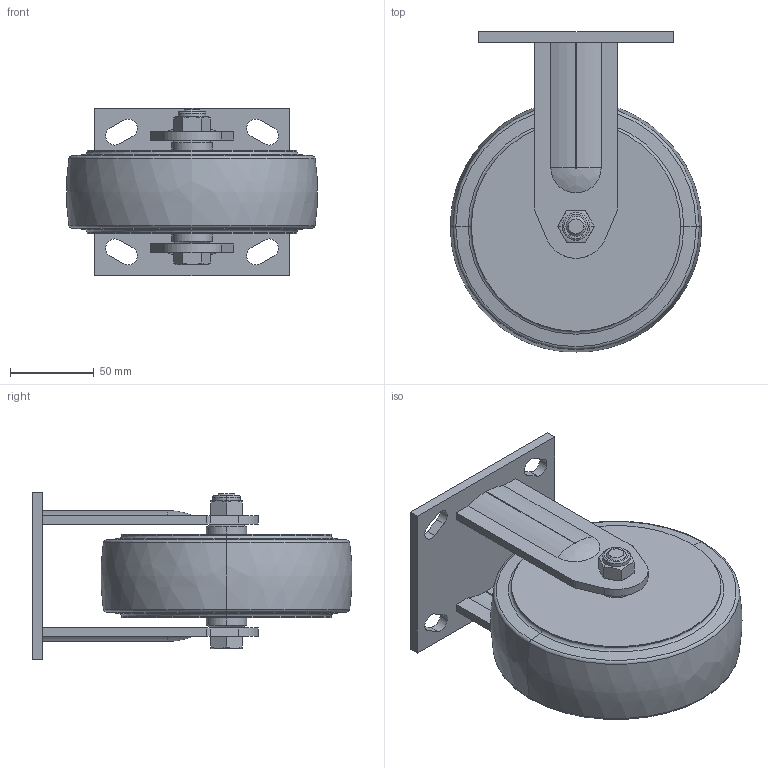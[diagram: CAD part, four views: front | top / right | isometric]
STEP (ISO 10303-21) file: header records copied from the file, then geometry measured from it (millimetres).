
FILE_DESCRIPTION((''),'2;1');
FILE_NAME('73106-736-86_ASM','2020-11-25T',('lenovo'),(''),'PRO/ENGINEER BY PARAMETRIC TECHNOLOGY CORPORATION, 2010280','PRO/ENGINEER BY PARAMETRIC TECHNOLOGY CORPORATION, 2010280','');
FILE_SCHEMA(('CONFIG_CONTROL_DESIGN'));
Length unit declared in the file: millimetre
Products named in the file (6): 7310-200; 7316-351; 736-86; 7010-33; 7010-34; 73106-736-86_ASM
Assembly tree (5 placements, depth 2):
  73106-736-86_ASM
    7310-200
    7316-351
    736-86
    7010-33
    7010-34
Bounding box: 149.65 x 190.83 x 100 mm (x, y, z)
Volume: 981583.7 mm3; surface area: 114385 mm2
Topology: 6 solids, 6 shells, 139 faces, 328 edges, 206 vertices
Faces by surface type: plane 55, cylinder 44, cone 20, torus 14, bspline 6
Entity records: 4479 total; most frequent: CARTESIAN_POINT 1056, DIRECTION 738, ORIENTED_EDGE 656, EDGE_CURVE 328, AXIS2_PLACEMENT_3D 290, VERTEX_POINT 206, VECTOR 158, LINE 158
